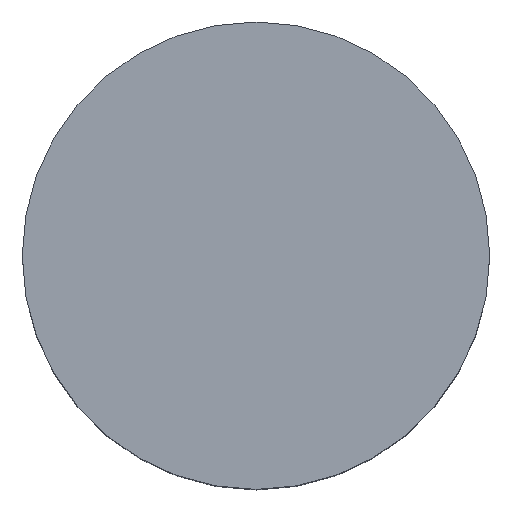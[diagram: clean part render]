
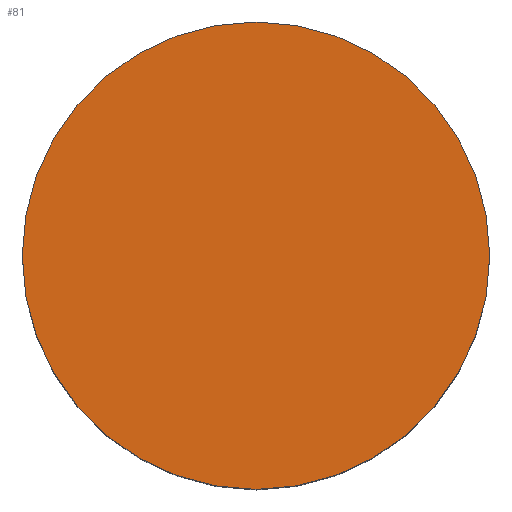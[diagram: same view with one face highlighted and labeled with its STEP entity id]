
A CAD part, top view. The second image highlights one B-rep face of the part: STEP entity #81.
In plain terms, the highlighted planar face has unit normal (0, 0, 1).
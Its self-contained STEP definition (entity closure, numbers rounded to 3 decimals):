
#81 = ADVANCED_FACE( '', ( #110 ), #111, .F. );
#110 = FACE_OUTER_BOUND( '', #157, .T. );
#111 = PLANE( '', #158 );
#157 = EDGE_LOOP( '', ( #240 ) );
#158 = AXIS2_PLACEMENT_3D( '', #241, #242, #243 );
#240 = ORIENTED_EDGE( '', *, *, #316, .F. );
#241 = CARTESIAN_POINT( '', ( 0., 0., 29.7 ) );
#242 = DIRECTION( '', ( 0., 0., -1. ) );
#243 = DIRECTION( '', ( -1., 0., 0. ) );
#316 = EDGE_CURVE( '', #353, #353, #354, .T. );
#353 = VERTEX_POINT( '', #413 );
#354 = CIRCLE( '', #414, 21.5 );
#413 = CARTESIAN_POINT( '', ( 21.5, 0., 29.7 ) );
#414 = AXIS2_PLACEMENT_3D( '', #485, #486, #487 );
#485 = CARTESIAN_POINT( '', ( 0., 0., 29.7 ) );
#486 = DIRECTION( '', ( 0., 0., -1. ) );
#487 = DIRECTION( '', ( 1., 0., 0. ) );
